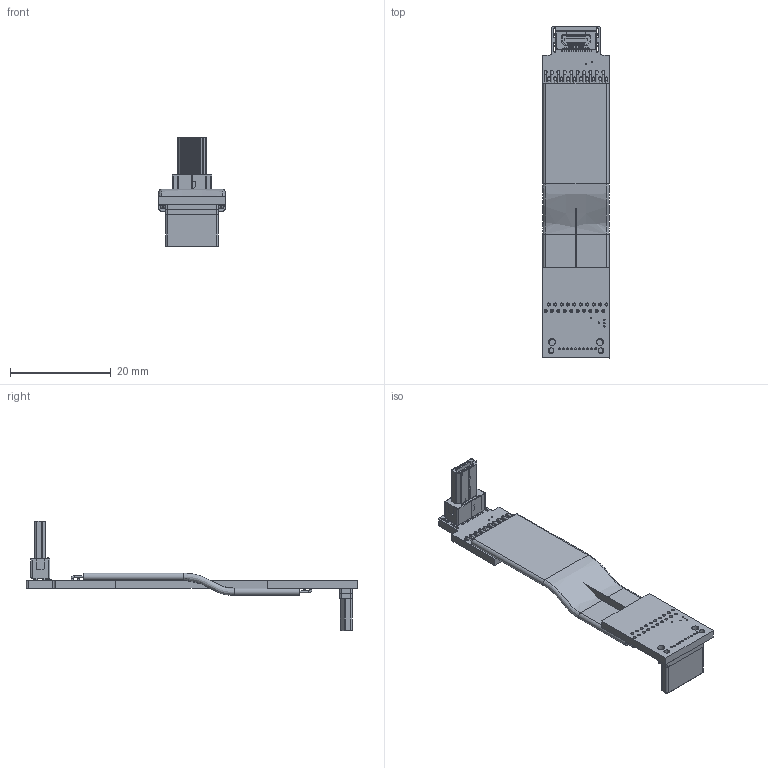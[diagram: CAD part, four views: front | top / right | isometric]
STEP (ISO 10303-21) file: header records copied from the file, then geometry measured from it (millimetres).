
FILE_DESCRIPTION(('Open CASCADE Model'),'2;1');
FILE_NAME('Open CASCADE Shape Model','2022-06-09T23:48:40',('Author'),( 'Open CASCADE'),'Open CASCADE STEP processor 6.8','Open CASCADE 6.8' ,'Unknown');
FILE_SCHEMA(('AUTOMOTIVE_DESIGN { 1 0 10303 214 1 1 1 1 }'));
Length unit declared in the file: millimetre
Products named in the file (70): PCB; Board; Open CASCADE STEP translator 6.8 11.1.1; _1; HDMI_MICRO_D(M)_9p俔殏(1); Open CASCADE STEP translator 6.8 11.3; HDMI_type_C1; miniHDMI-p_RGB10275833; Free-Models; cable20-A2C3
Assembly tree (70 placements, depth 3):
  PCB
    Board
      Open CASCADE STEP translator 6.8 11.1.1
    _1
      HDMI_MICRO_D(M)_9p俔殏(1)
      HDMI_MICRO_D(M)_9p俔殏(1)
      HDMI_MICRO_D(M)_9p俔殏(1)
      HDMI_MICRO_D(M)_9p俔殏(1)
      HDMI_MICRO_D(M)_9p俔殏(1)
      HDMI_MICRO_D(M)_9p俔殏(1)
      HDMI_MICRO_D(M)_9p俔殏(1)
      HDMI_MICRO_D(M)_9p俔殏(1)
      HDMI_MICRO_D(M)_9p俔殏(1)
      HDMI_MICRO_D(M)_9p俔殏(1)
      HDMI_MICRO_D(M)_9p俔殏(1)
      HDMI_MICRO_D(M)_9p俔殏(1)
      HDMI_MICRO_D(M)_9p俔殏(1)
      HDMI_MICRO_D(M)_9p俔殏(1)
      HDMI_MICRO_D(M)_9p俔殏(1)
      HDMI_MICRO_D(M)_9p俔殏(1)
      HDMI_MICRO_D(M)_9p俔殏(1)
      HDMI_MICRO_D(M)_9p俔殏(1)
      HDMI_MICRO_D(M)_9p俔殏(1)
      HDMI_MICRO_D(M)_9p俔殏(1)
      HDMI_MICRO_D(M)_9p俔殏(1)
      HDMI_MICRO_D(M)_9p俔殏(1)
    Open CASCADE STEP translator 6.8 11.3
      HDMI_type_C1
      miniHDMI-p_RGB10275833  x2
    Free-Models
      cable20-A2C3
      cable20-A2C3
      cable20-A2C3
      cable20-A2C3
      cable20-A2C3
      cable20-A2C3
      cable20-A2C3
      cable20-A2C3
      cable20-A2C3
      cable20-A2C3
      cable20-A2C3
      cable20-A2C3
      cable20-A2C3
      cable20-A2C3
      cable20-A2C3
      cable20-A2C3
      cable20-A2C3
      cable20-A2C3
      cable20-A2C3
      cable20-A2C3
      cable20-A2C3
      cable20-A2C3
      cable20-A2C3
      cable20-A2C3
      cable20-A2C3
      cable20-A2C3
      cable20-A2C3
      cable20-A2C3
      cable20-A2C3
      cable20-A2C3
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Bounding box: 13.35 x 65.81 x 21.65 mm (x, y, z)
Volume: 1729.4 mm3; surface area: 5250.5 mm2
Topology: 66 solids, 66 shells, 985 faces, 2433 edges, 1580 vertices
Faces by surface type: plane 604, cylinder 285, torus 46, bspline 46, extrusion 4
Full cylindrical faces by diameter (mm): 0.254 x8, 0.38 x10, 0.4 x106, 0.404 x2, 0.405 x2, 0.6 x40, 1.1 x2, 1.4 x2
Entity records: 40144 total; most frequent: CARTESIAN_POINT 7651, ORIENTED_EDGE 4818, DIRECTION 4783, EDGE_CURVE 2409, VECTOR 1599, LINE 1595, AXIS2_PLACEMENT_3D 1592, VERTEX_POINT 1564
